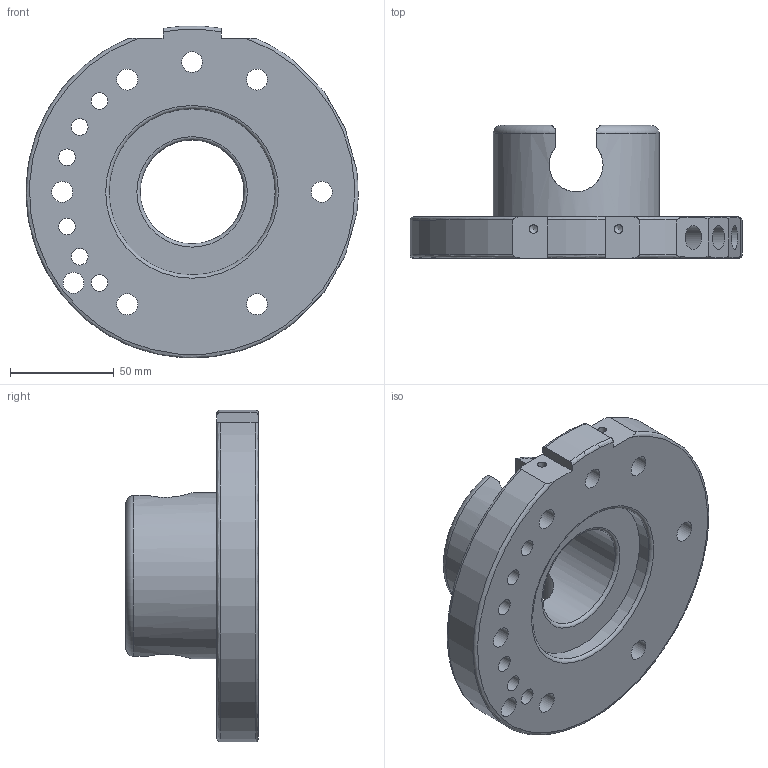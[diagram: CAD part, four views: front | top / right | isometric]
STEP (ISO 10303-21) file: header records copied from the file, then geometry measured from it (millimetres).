
FILE_DESCRIPTION(/* description */ (''),/* implementation_level */ '2;1');
FILE_NAME(/* name */ 'T:\Engineering\Homepage\Homepage 2020\4 3D Step-Daten - Homepage\4 SHW\G-SHW160-2UEP.stp',/* time_stamp */ '2023-06-30T11:08:27+02:00',/* author */ ('ysplieth'),/* organization */ (''),/* preprocessor_version */ 'ST-DEVELOPER v17',/* originating_system */ 'Autodesk Inventor 2018',/* authorisation */ '');
FILE_SCHEMA (('AUTOMOTIVE_DESIGN { 1 0 10303 214 3 1 1 }'));
Length unit declared in the file: millimetre
Products named in the file (1): Bauteil12
Bounding box: 159.92 x 64 x 159.83 mm (x, y, z)
Volume: 401378.9 mm3; surface area: 79000.5 mm2
Topology: 1 solids, 1 shells, 90 faces, 289 edges, 208 vertices
Faces by surface type: cylinder 43, plane 29, torus 10, cone 8
Full cylindrical faces by diameter (mm): 4.134 x2, 8 x12, 10 x1, 10.1 x1, 10.106 x6, 11.445 x6, 18 x6, 50 x1, 80 x2
Entity records: 4225 total; most frequent: CARTESIAN_POINT 1394, ORIENTED_EDGE 562, DIRECTION 561, EDGE_CURVE 281, AXIS2_PLACEMENT_3D 237, VERTEX_POINT 208, EDGE_LOOP 147, CIRCLE 142
